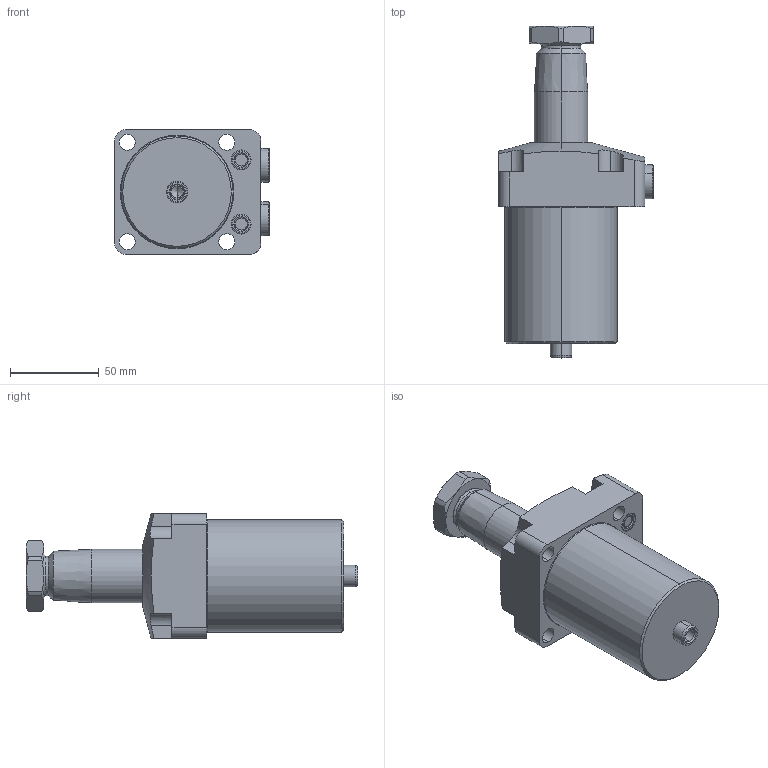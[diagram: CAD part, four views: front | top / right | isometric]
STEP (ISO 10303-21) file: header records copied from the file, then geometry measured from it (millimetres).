
FILE_DESCRIPTION(/* description */ (''),/* implementation_level */ '2;1');
FILE_NAME(/* name */ 'TRC10-RD.stp',/* time_stamp */ '2025-01-04T09:07:16+08:00',/* author */ (''),/* organization */ (''),/* preprocessor_version */ 'ST-DEVELOPER v16.7',/* originating_system */ 'SIEMENS PLM Software NX 12.0',/* authorisation */ '');
FILE_SCHEMA (('AUTOMOTIVE_DESIGN { 1 0 10303 214 3 1 1 1 }'));
Length unit declared in the file: millimetre
Products named in the file (5): TRC10-RD-01; TRC10-RD-02; TRC10-RD-04; TRC10-RD-03; TRC10-RD_stp
Assembly tree (5 placements, depth 2):
  TRC10-RD_stp
    TRC10-RD-03  x2
    TRC10-RD-04
    TRC10-RD-02
    TRC10-RD-01
Bounding box: 86.8 x 186.5 x 70 mm (x, y, z)
Volume: 444753.3 mm3; surface area: 63462.9 mm2
Topology: 5 solids, 7 shells, 219 faces, 501 edges, 309 vertices
Faces by surface type: cylinder 81, plane 69, cone 46, torus 22, sphere 1
Entity records: 5848 total; most frequent: CARTESIAN_POINT 1157, DIRECTION 1024, ORIENTED_EDGE 904, EDGE_CURVE 452, AXIS2_PLACEMENT_3D 422, VERTEX_POINT 281, EDGE_LOOP 227, CIRCLE 219
